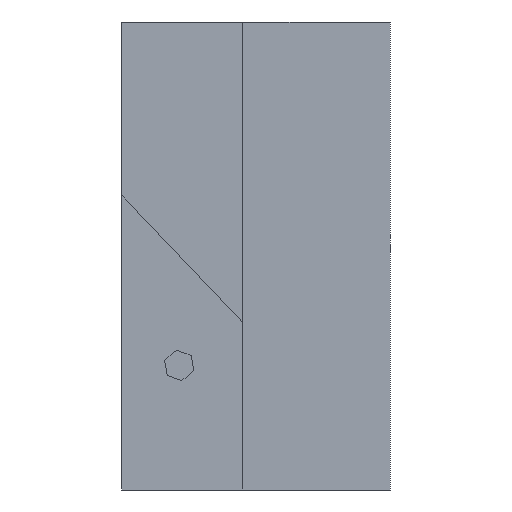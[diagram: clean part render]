
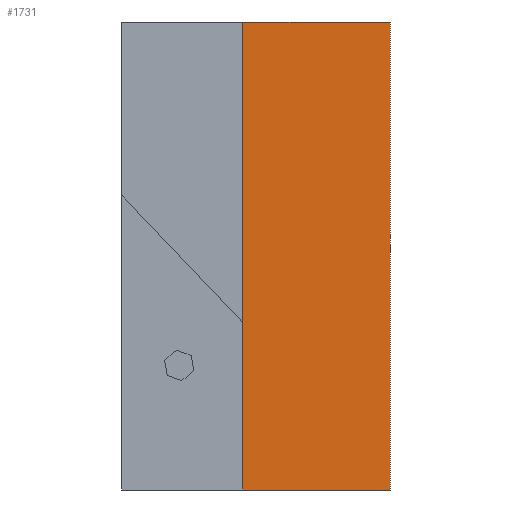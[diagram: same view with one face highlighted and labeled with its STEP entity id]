
A CAD part, left-side view. The second image highlights one B-rep face of the part: STEP entity #1731.
In plain terms, the highlighted planar face has unit normal (-1, 0, 0).
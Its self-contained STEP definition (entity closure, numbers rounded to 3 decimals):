
#72 = PLANE('',#73);
#73 = AXIS2_PLACEMENT_3D('',#74,#75,#76);
#74 = CARTESIAN_POINT('',(0.,9.483,30.125));
#75 = DIRECTION('',(0.,1.,0.));
#76 = DIRECTION('',(0.,0.,-1.));
#100 = PLANE('',#101);
#101 = AXIS2_PLACEMENT_3D('',#102,#103,#104);
#102 = CARTESIAN_POINT('',(0.,0.,0.));
#103 = DIRECTION('',(0.,0.,1.));
#104 = DIRECTION('',(1.,0.,-0.));
#451 = PLANE('',#452);
#452 = AXIS2_PLACEMENT_3D('',#453,#454,#455);
#453 = CARTESIAN_POINT('',(0.,0.,30.125));
#454 = DIRECTION('',(0.,0.,1.));
#455 = DIRECTION('',(1.,0.,-0.));
#702 = VERTEX_POINT('',#703);
#703 = CARTESIAN_POINT('',(9.956,9.483,30.125
    ));
#724 = EDGE_CURVE('',#702,#725,#727,.T.);
#725 = VERTEX_POINT('',#726);
#726 = CARTESIAN_POINT('',(9.956,9.483,0.));
#727 = SURFACE_CURVE('',#728,(#732,#739),.PCURVE_S1.);
#728 = LINE('',#729,#730);
#729 = CARTESIAN_POINT('',(9.956,9.483,30.125
    ));
#730 = VECTOR('',#731,1.);
#731 = DIRECTION('',(0.,0.,-1.));
#732 = PCURVE('',#72,#733);
#733 = DEFINITIONAL_REPRESENTATION('',(#734),#738);
#734 = LINE('',#735,#736);
#735 = CARTESIAN_POINT('',(0.,-9.956));
#736 = VECTOR('',#737,1.);
#737 = DIRECTION('',(1.,0.));
#738 = ( GEOMETRIC_REPRESENTATION_CONTEXT(2) 
PARAMETRIC_REPRESENTATION_CONTEXT() REPRESENTATION_CONTEXT('2D SPACE',''
  ) );
#739 = PCURVE('',#740,#745);
#740 = PLANE('',#741);
#741 = AXIS2_PLACEMENT_3D('',#742,#743,#744);
#742 = CARTESIAN_POINT('',(9.956,4.741,15.063
    ));
#743 = DIRECTION('',(-1.,-0.,-0.));
#744 = DIRECTION('',(0.,0.,-1.));
#745 = DEFINITIONAL_REPRESENTATION('',(#746),#750);
#746 = LINE('',#747,#748);
#747 = CARTESIAN_POINT('',(-15.063,-4.741));
#748 = VECTOR('',#749,1.);
#749 = DIRECTION('',(1.,0.));
#750 = ( GEOMETRIC_REPRESENTATION_CONTEXT(2) 
PARAMETRIC_REPRESENTATION_CONTEXT() REPRESENTATION_CONTEXT('2D SPACE',''
  ) );
#920 = EDGE_CURVE('',#725,#921,#923,.T.);
#921 = VERTEX_POINT('',#922);
#922 = CARTESIAN_POINT('',(9.956,0.,0.));
#923 = SURFACE_CURVE('',#924,(#928,#935),.PCURVE_S1.);
#924 = LINE('',#925,#926);
#925 = CARTESIAN_POINT('',(9.956,9.483,0.));
#926 = VECTOR('',#927,1.);
#927 = DIRECTION('',(0.,-1.,0.));
#928 = PCURVE('',#100,#929);
#929 = DEFINITIONAL_REPRESENTATION('',(#930),#934);
#930 = LINE('',#931,#932);
#931 = CARTESIAN_POINT('',(9.956,9.483));
#932 = VECTOR('',#933,1.);
#933 = DIRECTION('',(0.,-1.));
#934 = ( GEOMETRIC_REPRESENTATION_CONTEXT(2) 
PARAMETRIC_REPRESENTATION_CONTEXT() REPRESENTATION_CONTEXT('2D SPACE',''
  ) );
#935 = PCURVE('',#740,#936);
#936 = DEFINITIONAL_REPRESENTATION('',(#937),#941);
#937 = LINE('',#938,#939);
#938 = CARTESIAN_POINT('',(15.063,-4.741));
#939 = VECTOR('',#940,1.);
#940 = DIRECTION('',(0.,1.));
#941 = ( GEOMETRIC_REPRESENTATION_CONTEXT(2) 
PARAMETRIC_REPRESENTATION_CONTEXT() REPRESENTATION_CONTEXT('2D SPACE',''
  ) );
#959 = PLANE('',#960);
#960 = AXIS2_PLACEMENT_3D('',#961,#962,#963);
#961 = CARTESIAN_POINT('',(0.,0.,0.));
#962 = DIRECTION('',(-0.,1.,0.));
#963 = DIRECTION('',(0.,0.,1.));
#1478 = EDGE_CURVE('',#1479,#702,#1481,.T.);
#1479 = VERTEX_POINT('',#1480);
#1480 = CARTESIAN_POINT('',(9.956,0.,30.125));
#1481 = SURFACE_CURVE('',#1482,(#1486,#1493),.PCURVE_S1.);
#1482 = LINE('',#1483,#1484);
#1483 = CARTESIAN_POINT('',(9.956,0.,30.125));
#1484 = VECTOR('',#1485,1.);
#1485 = DIRECTION('',(0.,1.,0.));
#1486 = PCURVE('',#451,#1487);
#1487 = DEFINITIONAL_REPRESENTATION('',(#1488),#1492);
#1488 = LINE('',#1489,#1490);
#1489 = CARTESIAN_POINT('',(9.956,0.));
#1490 = VECTOR('',#1491,1.);
#1491 = DIRECTION('',(0.,1.));
#1492 = ( GEOMETRIC_REPRESENTATION_CONTEXT(2) 
PARAMETRIC_REPRESENTATION_CONTEXT() REPRESENTATION_CONTEXT('2D SPACE',''
  ) );
#1493 = PCURVE('',#740,#1494);
#1494 = DEFINITIONAL_REPRESENTATION('',(#1495),#1499);
#1495 = LINE('',#1496,#1497);
#1496 = CARTESIAN_POINT('',(-15.063,4.741));
#1497 = VECTOR('',#1498,1.);
#1498 = DIRECTION('',(0.,-1.));
#1499 = ( GEOMETRIC_REPRESENTATION_CONTEXT(2) 
PARAMETRIC_REPRESENTATION_CONTEXT() REPRESENTATION_CONTEXT('2D SPACE',''
  ) );
#1731 = ADVANCED_FACE('f021',(#1732),#740,.T.);
#1732 = FACE_BOUND('',#1733,.T.);
#1733 = EDGE_LOOP('',(#1734,#1735,#1756,#1757));
#1734 = ORIENTED_EDGE('',*,*,#920,.T.);
#1735 = ORIENTED_EDGE('',*,*,#1736,.T.);
#1736 = EDGE_CURVE('',#921,#1479,#1737,.T.);
#1737 = SURFACE_CURVE('',#1738,(#1742,#1749),.PCURVE_S1.);
#1738 = LINE('',#1739,#1740);
#1739 = CARTESIAN_POINT('',(9.956,0.,0.));
#1740 = VECTOR('',#1741,1.);
#1741 = DIRECTION('',(0.,0.,1.));
#1742 = PCURVE('',#740,#1743);
#1743 = DEFINITIONAL_REPRESENTATION('',(#1744),#1748);
#1744 = LINE('',#1745,#1746);
#1745 = CARTESIAN_POINT('',(15.063,4.741));
#1746 = VECTOR('',#1747,1.);
#1747 = DIRECTION('',(-1.,0.));
#1748 = ( GEOMETRIC_REPRESENTATION_CONTEXT(2) 
PARAMETRIC_REPRESENTATION_CONTEXT() REPRESENTATION_CONTEXT('2D SPACE',''
  ) );
#1749 = PCURVE('',#959,#1750);
#1750 = DEFINITIONAL_REPRESENTATION('',(#1751),#1755);
#1751 = LINE('',#1752,#1753);
#1752 = CARTESIAN_POINT('',(0.,9.956));
#1753 = VECTOR('',#1754,1.);
#1754 = DIRECTION('',(1.,0.));
#1755 = ( GEOMETRIC_REPRESENTATION_CONTEXT(2) 
PARAMETRIC_REPRESENTATION_CONTEXT() REPRESENTATION_CONTEXT('2D SPACE',''
  ) );
#1756 = ORIENTED_EDGE('',*,*,#1478,.T.);
#1757 = ORIENTED_EDGE('',*,*,#724,.T.);
